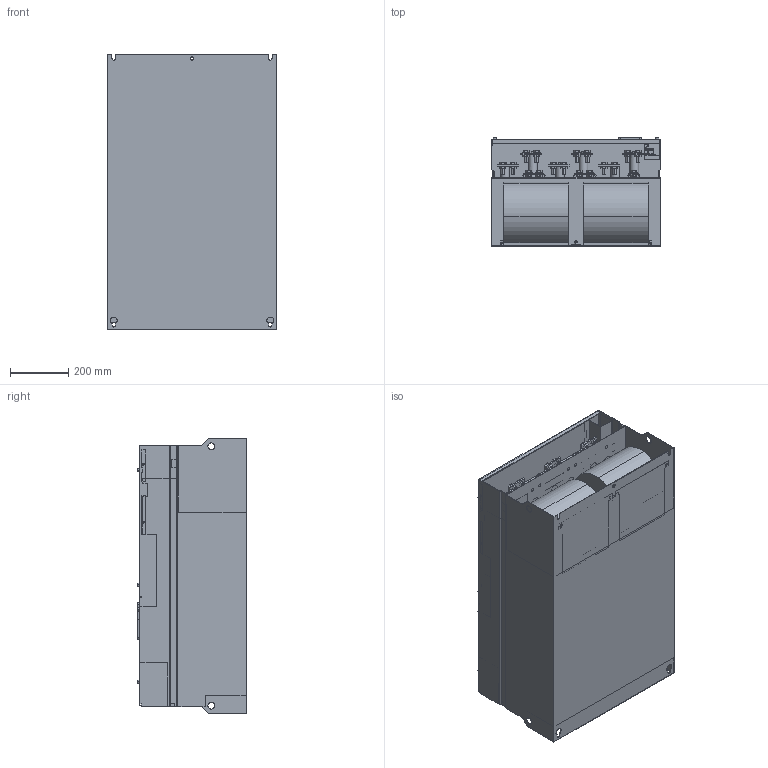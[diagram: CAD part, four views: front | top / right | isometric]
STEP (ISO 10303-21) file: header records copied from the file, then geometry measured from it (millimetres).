
FILE_DESCRIPTION((''),'2;1');
FILE_NAME('VFAS3_SA8_ASM_1_ASM_1_ASM','2021-06-03T14:47:18',('SESA57284'),('Schneider-Electric'),'CREO PARAMETRIC BY PTC INC, 2019471','CREO PARAMETRIC BY PTC INC, 2019471','');
FILE_SCHEMA(('AUTOMOTIVE_DESIGN { 1 0 10303 214 1 1 1 1 }'));
Length unit declared in the file: millimetre
Products named in the file (22): PRT1006_1_1; PRT1007_1_1; PRT1008_1_1; PRT3001_1_1; PRT1011_1_1; PRT1013_1_1; PRT1014_1_1; PRT1015_1_1; PRT1016_1_1; PRT1017_1_1; PRT1018_1_1; PRT1019_1_1; PRT1020_1_1; PRT1021_1_1; PRT1023_1_1; PRT1024_1_1; PRT1025_1_1; PRT1009_1_1; PRT1010_1_1; PRT1012_1_1; COV_S7B_3; VFAS3_SA8_ASM_1_ASM_1_ASM
Assembly tree (60 placements, depth 2):
  VFAS3_SA8_ASM_1_ASM_1_ASM
    PRT1006_1_1
    PRT1007_1_1  x2
    PRT1008_1_1
    PRT3001_1_1  x5
    PRT1011_1_1  x5
    PRT1013_1_1  x7
    PRT1014_1_1
    PRT1015_1_1  x2
    PRT1016_1_1  x2
    PRT1017_1_1  x2
    PRT1018_1_1
    PRT1019_1_1
    PRT1020_1_1
    PRT1021_1_1  x2
    PRT1023_1_1
    PRT1024_1_1
    PRT1025_1_1
    PRT1009_1_1  x5
    PRT1010_1_1  x12
    PRT1012_1_1  x6
    COV_S7B_3
Bounding box: 585 x 377 x 950 mm (x, y, z)
Volume: 150078080.2 mm3; surface area: 5788439.9 mm2
Topology: 60 solids, 60 shells, 2698 faces, 7145 edges, 4680 vertices
Faces by surface type: plane 1951, cylinder 619, cone 98, torus 26, bspline 4
Entity records: 65958 total; most frequent: CARTESIAN_POINT 12620, ORIENTED_EDGE 10924, DIRECTION 10254, EDGE_CURVE 5462, VECTOR 4338, LINE 4338, VERTEX_POINT 3592, AXIS2_PLACEMENT_3D 2958
